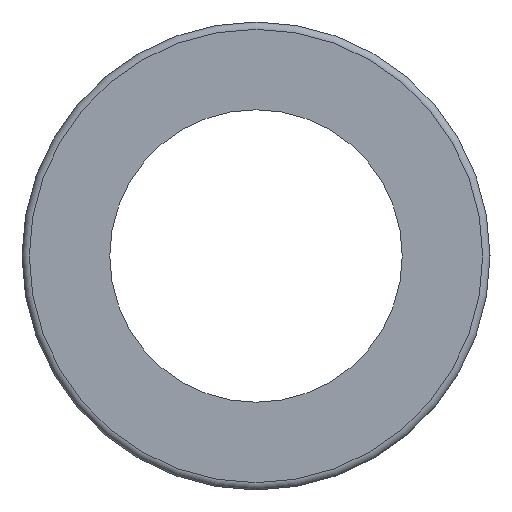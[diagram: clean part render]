
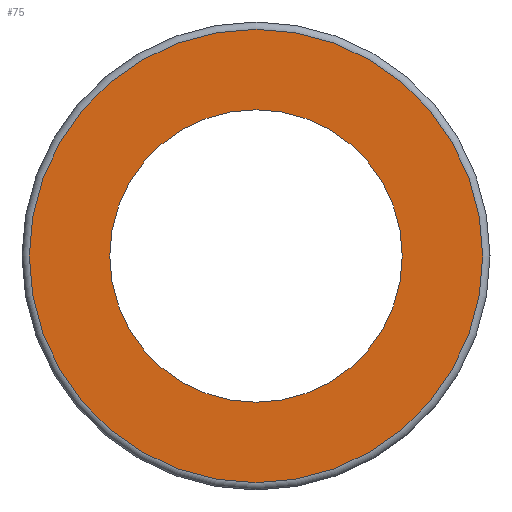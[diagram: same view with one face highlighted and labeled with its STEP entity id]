
A CAD part, left-side view. The second image highlights one B-rep face of the part: STEP entity #75.
In plain terms, the highlighted planar face has unit normal (-1, 0, 0).
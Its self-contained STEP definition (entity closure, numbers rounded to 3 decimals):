
#75=ADVANCED_FACE('',(#90,#91),#92,.T.);
#90=FACE_OUTER_BOUND('',#132,.T.);
#91=FACE_BOUND('',#133,.T.);
#92=PLANE('',#134);
#132=EDGE_LOOP('',(#174));
#133=EDGE_LOOP('',(#175));
#134=AXIS2_PLACEMENT_3D('',#176,#177,#178);
#174=ORIENTED_EDGE('',*,*,#244,.F.);
#175=ORIENTED_EDGE('',*,*,#245,.T.);
#176=CARTESIAN_POINT('',(60.011,12.75,0.0));
#177=DIRECTION('',(-1.0,0.0,0.0));
#178=DIRECTION('',(0.0,0.0,1.0));
#244=EDGE_CURVE('',#258,#258,#259,.T.);
#245=EDGE_CURVE('',#260,#260,#261,.T.);
#258=VERTEX_POINT('',#286);
#259=CIRCLE('',#287,15.5);
#260=VERTEX_POINT('',#288);
#261=CIRCLE('',#289,10.0);
#286=CARTESIAN_POINT('',(60.011,15.5,0.0));
#287=AXIS2_PLACEMENT_3D('',#314,#315,#316);
#288=CARTESIAN_POINT('',(60.011,10.0,0.0));
#289=AXIS2_PLACEMENT_3D('',#317,#318,#319);
#314=CARTESIAN_POINT('',(60.011,0.0,0.0));
#315=DIRECTION('',(1.0,0.0,0.0));
#316=DIRECTION('',(0.0,1.0,0.0));
#317=CARTESIAN_POINT('',(60.011,0.0,0.0));
#318=DIRECTION('',(1.0,0.0,0.0));
#319=DIRECTION('',(0.0,1.0,0.0));
